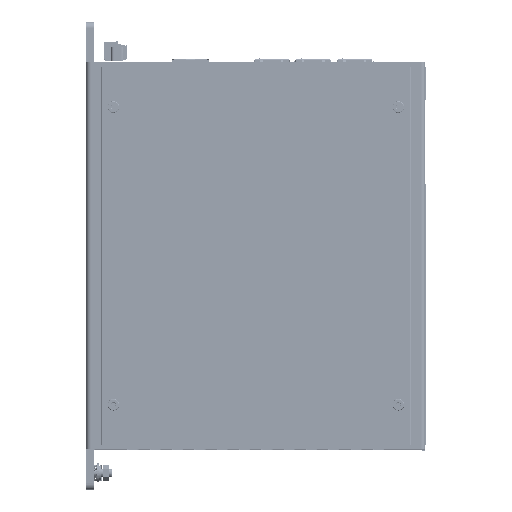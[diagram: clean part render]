
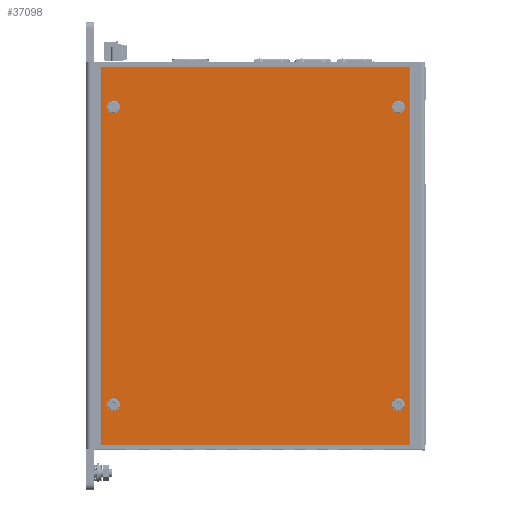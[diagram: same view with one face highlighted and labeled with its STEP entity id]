
A CAD part, top view. The second image highlights one B-rep face of the part: STEP entity #37098.
In plain terms, the highlighted planar face has unit normal (0, 0, 1).
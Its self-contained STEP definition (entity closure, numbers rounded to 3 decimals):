
#36871=DIRECTION('',(-1.,0.,0.));
#36872=VECTOR('',#36871,145.1);
#36873=CARTESIAN_POINT('',(66.3,88.3,46.2));
#36874=LINE('',#36873,#36872);
#36879=DIRECTION('',(0.,-1.,0.));
#36880=VECTOR('',#36879,177.6);
#36881=CARTESIAN_POINT('',(66.3,88.3,46.2));
#36882=LINE('',#36881,#36880);
#36883=DIRECTION('',(-1.,0.,0.));
#36884=VECTOR('',#36883,145.1);
#36885=CARTESIAN_POINT('',(66.3,-89.3,46.2));
#36886=LINE('',#36885,#36884);
#36887=DIRECTION('',(0.,1.,0.));
#36888=VECTOR('',#36887,177.6);
#36889=CARTESIAN_POINT('',(-78.8,-89.3,46.2));
#36890=LINE('',#36889,#36888);
#36891=CARTESIAN_POINT('',(-73.25,69.5,46.2));
#36892=DIRECTION('',(0.,0.,1.));
#36893=DIRECTION('',(0.,1.,0.));
#36894=AXIS2_PLACEMENT_3D('',#36891,#36892,#36893);
#36896=CARTESIAN_POINT('',(-73.25,69.5,46.2));
#36897=DIRECTION('',(0.,0.,1.));
#36898=DIRECTION('',(0.,-1.,0.));
#36899=AXIS2_PLACEMENT_3D('',#36896,#36897,#36898);
#36901=CARTESIAN_POINT('',(-73.25,-70.5,46.2));
#36902=DIRECTION('',(0.,0.,1.));
#36903=DIRECTION('',(0.,1.,0.));
#36904=AXIS2_PLACEMENT_3D('',#36901,#36902,#36903);
#36906=CARTESIAN_POINT('',(-73.25,-70.5,46.2));
#36907=DIRECTION('',(0.,0.,1.));
#36908=DIRECTION('',(0.,-1.,0.));
#36909=AXIS2_PLACEMENT_3D('',#36906,#36907,#36908);
#36911=CARTESIAN_POINT('',(60.75,69.5,46.2));
#36912=DIRECTION('',(0.,0.,1.));
#36913=DIRECTION('',(0.,1.,0.));
#36914=AXIS2_PLACEMENT_3D('',#36911,#36912,#36913);
#36916=CARTESIAN_POINT('',(60.75,69.5,46.2));
#36917=DIRECTION('',(0.,0.,1.));
#36918=DIRECTION('',(0.,-1.,0.));
#36919=AXIS2_PLACEMENT_3D('',#36916,#36917,#36918);
#36921=CARTESIAN_POINT('',(60.75,-70.5,46.2));
#36922=DIRECTION('',(0.,0.,1.));
#36923=DIRECTION('',(0.,1.,0.));
#36924=AXIS2_PLACEMENT_3D('',#36921,#36922,#36923);
#36926=CARTESIAN_POINT('',(60.75,-70.5,46.2));
#36927=DIRECTION('',(0.,0.,1.));
#36928=DIRECTION('',(0.,-1.,0.));
#36929=AXIS2_PLACEMENT_3D('',#36926,#36927,#36928);
#36943=CARTESIAN_POINT('',(66.3,-89.3,46.2));
#36944=CARTESIAN_POINT('',(66.3,88.3,46.2));
#36945=VERTEX_POINT('',#36943);
#36946=VERTEX_POINT('',#36944);
#36947=CARTESIAN_POINT('',(-78.8,-89.3,46.2));
#36948=CARTESIAN_POINT('',(-78.8,88.3,46.2));
#36949=VERTEX_POINT('',#36947);
#36950=VERTEX_POINT('',#36948);
#36951=CARTESIAN_POINT('',(-73.25,66.5,46.2));
#36952=CARTESIAN_POINT('',(-73.25,72.5,46.2));
#36953=VERTEX_POINT('',#36951);
#36954=VERTEX_POINT('',#36952);
#36955=CARTESIAN_POINT('',(-73.25,-73.5,46.2));
#36956=CARTESIAN_POINT('',(-73.25,-67.5,46.2));
#36957=VERTEX_POINT('',#36955);
#36958=VERTEX_POINT('',#36956);
#36959=CARTESIAN_POINT('',(60.75,66.5,46.2));
#36960=CARTESIAN_POINT('',(60.75,72.5,46.2));
#36961=VERTEX_POINT('',#36959);
#36962=VERTEX_POINT('',#36960);
#36963=CARTESIAN_POINT('',(60.75,-73.5,46.2));
#36964=CARTESIAN_POINT('',(60.75,-67.5,46.2));
#36965=VERTEX_POINT('',#36963);
#36966=VERTEX_POINT('',#36964);
#37060=CARTESIAN_POINT('',(66.3,-89.3,46.2));
#37061=DIRECTION('',(0.,0.,1.));
#37062=DIRECTION('',(0.,1.,0.));
#37063=AXIS2_PLACEMENT_3D('',#37060,#37061,#37062);
#37064=PLANE('',#37063);
#37066=ORIENTED_EDGE('',*,*,#37065,.T.);
#37068=ORIENTED_EDGE('',*,*,#37067,.T.);
#37070=ORIENTED_EDGE('',*,*,#37069,.T.);
#37071=ORIENTED_EDGE('',*,*,#37045,.F.);
#37072=EDGE_LOOP('',(#37066,#37068,#37070,#37071));
#37073=FACE_OUTER_BOUND('',#37072,.F.);
#37075=ORIENTED_EDGE('',*,*,#37074,.T.);
#37077=ORIENTED_EDGE('',*,*,#37076,.T.);
#37078=EDGE_LOOP('',(#37075,#37077));
#37079=FACE_BOUND('',#37078,.F.);
#37081=ORIENTED_EDGE('',*,*,#37080,.T.);
#37083=ORIENTED_EDGE('',*,*,#37082,.T.);
#37084=EDGE_LOOP('',(#37081,#37083));
#37085=FACE_BOUND('',#37084,.F.);
#37087=ORIENTED_EDGE('',*,*,#37086,.T.);
#37089=ORIENTED_EDGE('',*,*,#37088,.T.);
#37090=EDGE_LOOP('',(#37087,#37089));
#37091=FACE_BOUND('',#37090,.F.);
#37093=ORIENTED_EDGE('',*,*,#37092,.T.);
#37095=ORIENTED_EDGE('',*,*,#37094,.T.);
#37096=EDGE_LOOP('',(#37093,#37095));
#37097=FACE_BOUND('',#37096,.F.);
#36895=CIRCLE('',#36894,3.);
#36900=CIRCLE('',#36899,3.);
#36905=CIRCLE('',#36904,3.);
#36910=CIRCLE('',#36909,3.);
#36915=CIRCLE('',#36914,3.);
#36920=CIRCLE('',#36919,3.);
#36925=CIRCLE('',#36924,3.);
#36930=CIRCLE('',#36929,3.);
#37045=EDGE_CURVE('',#36946,#36950,#36874,.T.);
#37065=EDGE_CURVE('',#36946,#36945,#36882,.T.);
#37067=EDGE_CURVE('',#36945,#36949,#36886,.T.);
#37069=EDGE_CURVE('',#36949,#36950,#36890,.T.);
#37074=EDGE_CURVE('',#36954,#36953,#36895,.T.);
#37076=EDGE_CURVE('',#36953,#36954,#36900,.T.);
#37080=EDGE_CURVE('',#36958,#36957,#36905,.T.);
#37082=EDGE_CURVE('',#36957,#36958,#36910,.T.);
#37086=EDGE_CURVE('',#36962,#36961,#36915,.T.);
#37088=EDGE_CURVE('',#36961,#36962,#36920,.T.);
#37092=EDGE_CURVE('',#36966,#36965,#36925,.T.);
#37094=EDGE_CURVE('',#36965,#36966,#36930,.T.);
#37098=ADVANCED_FACE('',(#37073,#37079,#37085,#37091,#37097),#37064,.T.);
